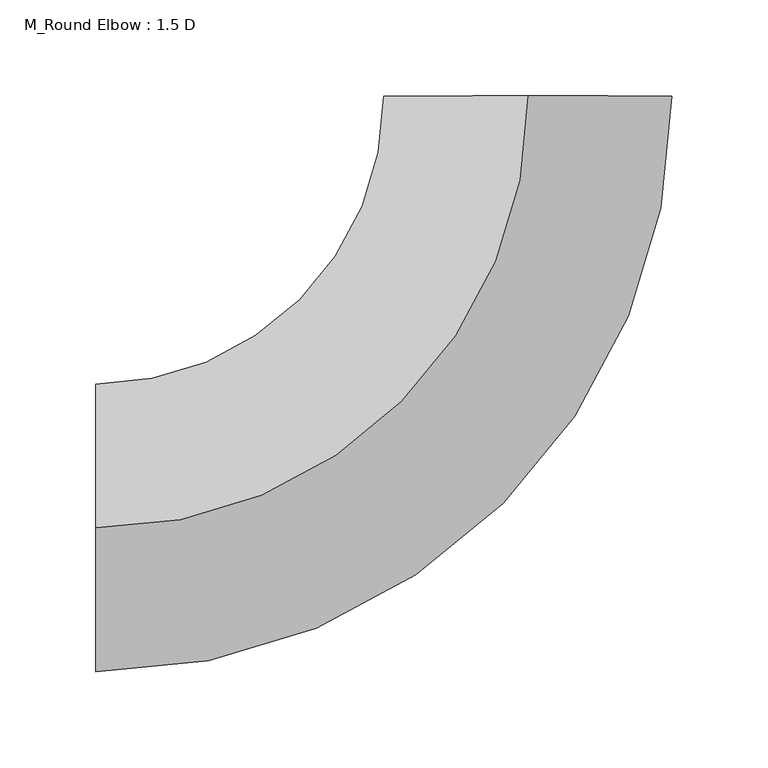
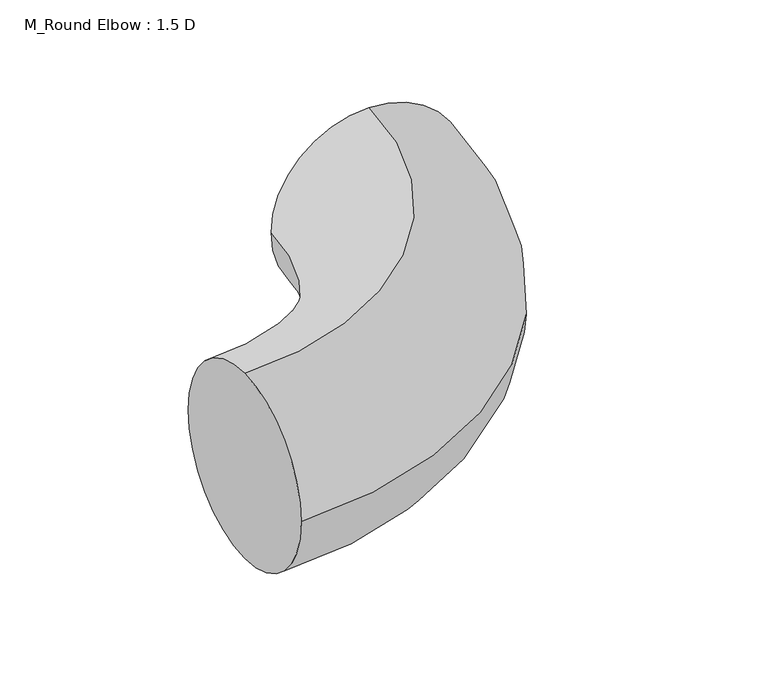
"""IFC4 building model written with IfcOpenShell, lengths in millimetres: duct fitting geometry, M_Round Elbow : 1.5 D."""

from ifc_helpers import new_model, si_unit, point, frame, origin, place, context, project, spatial, circle_curve, ellipse_curve, trimmed, source, transform, mapped, element, save
from ifc_brep_helpers import plane_surface, revolved_surface, advanced_brep


def m_round_elbow_1_5_d_a5a9c0f7(model_context):
    return source(origin(), model_context, "Body", "AdvancedBrep", [
        advanced_brep(
        [(-225.0030571, 0.0, 75.0), (-225.0030571, 75.0, 0.0), (-225.0030571, 0.0, -75.0), (-225.0030571, -75.0, 0.0), (-0.0030571, 225.0030571, 75.0), (74.9969429, 225.0040761, 0.0), (-0.0030571, 225.0030571, -75.0), (-75.0030571, 225.002038, 0.0)],
        [
            (0, 1, circle_curve(frame((-225.0030571, 0.0, 0.0), z_axis=(-1.0, 0.0, 0.0), x_axis=(0.0, 1.0, 0.0)), 75.0)),
            (1, 2, circle_curve(frame((-225.0030571, 0.0, 0.0), z_axis=(-1.0, 0.0, 0.0), x_axis=(0.0, 1.0, 0.0)), 75.0)),
            (2, 3, circle_curve(frame((-225.0030571, 0.0, 0.0), z_axis=(-1.0, 0.0, 0.0), x_axis=(0.0, 1.0, 0.0)), 75.0)),
            (3, 0, circle_curve(frame((-225.0030571, 0.0, 0.0), z_axis=(-1.0, 0.0, 0.0), x_axis=(0.0, 1.0, 0.0)), 75.0)),
            (4, 5, circle_curve(frame((-0.0030571, 225.0030571, 0.0), z_axis=(-1.3586956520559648e-05, 0.9999999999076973, 0.0), x_axis=(-0.9999999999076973, -1.3586956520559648e-05, 0.0)), 75.0)),
            (5, 6, circle_curve(frame((-0.0030571, 225.0030571, 0.0), z_axis=(-1.3586956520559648e-05, 0.9999999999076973, 0.0), x_axis=(-0.9999999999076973, -1.3586956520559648e-05, 0.0)), 75.0)),
            (6, 7, circle_curve(frame((-0.0030571, 225.0030571, 0.0), z_axis=(-1.3586956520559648e-05, 0.9999999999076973, 0.0), x_axis=(-0.9999999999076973, -1.3586956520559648e-05, 0.0)), 75.0)),
            (7, 4, circle_curve(frame((-0.0030571, 225.0030571, 0.0), z_axis=(-1.3586956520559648e-05, 0.9999999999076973, 0.0), x_axis=(-0.9999999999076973, -1.3586956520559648e-05, 0.0)), 75.0)),
            (7, 1, circle_curve(frame((-225.0030571, 225.0, 0.0), z_axis=(0.0, 0.0, -1.0), x_axis=(0.0, -1.0, 0.0)), 150.0)),
            (0, 4, circle_curve(frame((-225.0030571, 225.0, 75.0), z_axis=(0.0, 0.0, 1.0), x_axis=(0.0, -1.0, 0.0)), 225.0)),
            (6, 2, circle_curve(frame((-225.0030571, 225.0, -75.0), z_axis=(0.0, 0.0, -1.0), x_axis=(0.0, -1.0, 0.0)), 225.0)),
            (5, 3, circle_curve(frame((-225.0030571, 225.0, 0.0), z_axis=(0.0, 0.0, -1.0), x_axis=(0.0, -1.0, 0.0)), 300.0)),
        ],
        [
            plane_surface(frame((-225.0030571, 0.0, 0.0), z_axis=(-1.0, 0.0, 0.0), x_axis=(0.0, 0.0, 1.0))),
            plane_surface(frame((-0.0030571, 225.0030571, 0.0), z_axis=(-1.3586956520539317e-05, 0.9999999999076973, 0.0), x_axis=(0.0, 0.0, 1.0))),
            revolved_surface(trimmed(ellipse_curve(frame((-225.0030571, 0.0, 0.0), z_axis=(-1.0, 0.0, 0.0), x_axis=(0.0, 1.0, 0.0)), 75.0, 75.0), [point((-225.0030571, 0.0, 75.0))], [point((-225.0030571, 75.0, 0.0))], True, "CARTESIAN"), (-225.0030571, 225.0, 0.0), (0.0, 0.0, 1.0)),
            revolved_surface(trimmed(ellipse_curve(frame((-225.0030571, 0.0, 0.0), z_axis=(-1.0, 0.0, 0.0), x_axis=(0.0, 1.0, 0.0)), 75.0, 75.0), [point((-225.0030571, 75.0, 0.0))], [point((-225.0030571, 0.0, -75.0))], True, "CARTESIAN"), (-225.0030571, 225.0, 0.0), (0.0, 0.0, 1.0)),
            revolved_surface(trimmed(ellipse_curve(frame((-225.0030571, 0.0, 0.0), z_axis=(-1.0, 0.0, 0.0), x_axis=(0.0, 1.0, 0.0)), 75.0, 75.0), [point((-225.0030571, 0.0, -75.0))], [point((-225.0030571, -75.0, 0.0))], True, "CARTESIAN"), (-225.0030571, 225.0, 0.0), (0.0, 0.0, 1.0)),
            revolved_surface(trimmed(ellipse_curve(frame((-225.0030571, 0.0, 0.0), z_axis=(-1.0, 0.0, 0.0), x_axis=(0.0, 1.0, 0.0)), 75.0, 75.0), [point((-225.0030571, -75.0, 0.0))], [point((-225.0030571, 0.0, 75.0))], True, "CARTESIAN"), (-225.0030571, 225.0, 0.0), (0.0, 0.0, 1.0)),
        ],
        [
            (0, [[1, 2, 3, 4]]),
            (1, [[5, 6, 7, 8]]),
            (2, [[9, -1, 10, -8]]),
            (3, [[11, -2, -9, -7]]),
            (4, [[12, -3, -11, -6]]),
            (5, [[-10, -4, -12, -5]]),
        ],
    ),
        advanced_brep(
        [(-225.0030571, 0.0, 75.0), (-225.0030571, 75.0, 0.0), (-225.0030571, 0.0, -75.0), (-225.0030571, -75.0, 0.0), (-0.0030571, 225.0030571, 75.0), (74.9969429, 225.0040761, 0.0), (-0.0030571, 225.0030571, -75.0), (-75.0030571, 225.002038, 0.0)],
        [
            (0, 1, circle_curve(frame((-225.0030571, 0.0, 0.0), z_axis=(-1.0, 0.0, 0.0), x_axis=(0.0, 1.0, 0.0)), 75.0)),
            (1, 2, circle_curve(frame((-225.0030571, 0.0, 0.0), z_axis=(-1.0, 0.0, 0.0), x_axis=(0.0, 1.0, 0.0)), 75.0)),
            (2, 3, circle_curve(frame((-225.0030571, 0.0, 0.0), z_axis=(-1.0, 0.0, 0.0), x_axis=(0.0, 1.0, 0.0)), 75.0)),
            (3, 0, circle_curve(frame((-225.0030571, 0.0, 0.0), z_axis=(-1.0, 0.0, 0.0), x_axis=(0.0, 1.0, 0.0)), 75.0)),
            (4, 5, circle_curve(frame((-0.0030571, 225.0030571, 0.0), z_axis=(-1.3586956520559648e-05, 0.9999999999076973, 0.0), x_axis=(-0.9999999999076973, -1.3586956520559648e-05, 0.0)), 75.0)),
            (5, 6, circle_curve(frame((-0.0030571, 225.0030571, 0.0), z_axis=(-1.3586956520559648e-05, 0.9999999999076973, 0.0), x_axis=(-0.9999999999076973, -1.3586956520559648e-05, 0.0)), 75.0)),
            (6, 7, circle_curve(frame((-0.0030571, 225.0030571, 0.0), z_axis=(-1.3586956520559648e-05, 0.9999999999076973, 0.0), x_axis=(-0.9999999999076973, -1.3586956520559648e-05, 0.0)), 75.0)),
            (7, 4, circle_curve(frame((-0.0030571, 225.0030571, 0.0), z_axis=(-1.3586956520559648e-05, 0.9999999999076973, 0.0), x_axis=(-0.9999999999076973, -1.3586956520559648e-05, 0.0)), 75.0)),
            (7, 1, circle_curve(frame((-225.0030571, 225.0, 0.0), z_axis=(0.0, 0.0, -1.0), x_axis=(0.0, -1.0, 0.0)), 150.0)),
            (0, 4, circle_curve(frame((-225.0030571, 225.0, 75.0), z_axis=(0.0, 0.0, 1.0), x_axis=(0.0, -1.0, 0.0)), 225.0)),
            (6, 2, circle_curve(frame((-225.0030571, 225.0, -75.0), z_axis=(0.0, 0.0, -1.0), x_axis=(0.0, -1.0, 0.0)), 225.0)),
            (5, 3, circle_curve(frame((-225.0030571, 225.0, 0.0), z_axis=(0.0, 0.0, -1.0), x_axis=(0.0, -1.0, 0.0)), 300.0)),
        ],
        [
            plane_surface(frame((-225.0030571, 0.0, 0.0), z_axis=(-1.0, 0.0, 0.0), x_axis=(0.0, 0.0, 1.0))),
            plane_surface(frame((-0.0030571, 225.0030571, 0.0), z_axis=(-1.3586956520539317e-05, 0.9999999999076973, 0.0), x_axis=(0.0, 0.0, 1.0))),
            revolved_surface(trimmed(ellipse_curve(frame((-225.0030571, 0.0, 0.0), z_axis=(-1.0, 0.0, 0.0), x_axis=(0.0, 1.0, 0.0)), 75.0, 75.0), [point((-225.0030571, 0.0, 75.0))], [point((-225.0030571, 75.0, 0.0))], True, "CARTESIAN"), (-225.0030571, 225.0, 0.0), (0.0, 0.0, 1.0)),
            revolved_surface(trimmed(ellipse_curve(frame((-225.0030571, 0.0, 0.0), z_axis=(-1.0, 0.0, 0.0), x_axis=(0.0, 1.0, 0.0)), 75.0, 75.0), [point((-225.0030571, 75.0, 0.0))], [point((-225.0030571, 0.0, -75.0))], True, "CARTESIAN"), (-225.0030571, 225.0, 0.0), (0.0, 0.0, 1.0)),
            revolved_surface(trimmed(ellipse_curve(frame((-225.0030571, 0.0, 0.0), z_axis=(-1.0, 0.0, 0.0), x_axis=(0.0, 1.0, 0.0)), 75.0, 75.0), [point((-225.0030571, 0.0, -75.0))], [point((-225.0030571, -75.0, 0.0))], True, "CARTESIAN"), (-225.0030571, 225.0, 0.0), (0.0, 0.0, 1.0)),
            revolved_surface(trimmed(ellipse_curve(frame((-225.0030571, 0.0, 0.0), z_axis=(-1.0, 0.0, 0.0), x_axis=(0.0, 1.0, 0.0)), 75.0, 75.0), [point((-225.0030571, -75.0, 0.0))], [point((-225.0030571, 0.0, 75.0))], True, "CARTESIAN"), (-225.0030571, 225.0, 0.0), (0.0, 0.0, 1.0)),
        ],
        [
            (0, [[1, 2, 3, 4]]),
            (1, [[5, 6, 7, 8]]),
            (2, [[9, -1, 10, -8]]),
            (3, [[11, -2, -9, -7]]),
            (4, [[12, -3, -11, -6]]),
            (5, [[-10, -4, -12, -5]]),
        ],
    ),
        advanced_brep(
        [(-225.0030571, 0.0, 75.0), (-225.0030571, 75.0, 0.0), (-225.0030571, 0.0, -75.0), (-225.0030571, -75.0, 0.0), (-0.0030571, 225.0030571, 75.0), (74.9969429, 225.0040761, 0.0), (-0.0030571, 225.0030571, -75.0), (-75.0030571, 225.002038, 0.0)],
        [
            (0, 1, circle_curve(frame((-225.0030571, 0.0, 0.0), z_axis=(-1.0, 0.0, 0.0), x_axis=(0.0, 1.0, 0.0)), 75.0)),
            (1, 2, circle_curve(frame((-225.0030571, 0.0, 0.0), z_axis=(-1.0, 0.0, 0.0), x_axis=(0.0, 1.0, 0.0)), 75.0)),
            (2, 3, circle_curve(frame((-225.0030571, 0.0, 0.0), z_axis=(-1.0, 0.0, 0.0), x_axis=(0.0, 1.0, 0.0)), 75.0)),
            (3, 0, circle_curve(frame((-225.0030571, 0.0, 0.0), z_axis=(-1.0, 0.0, 0.0), x_axis=(0.0, 1.0, 0.0)), 75.0)),
            (4, 5, circle_curve(frame((-0.0030571, 225.0030571, 0.0), z_axis=(-1.3586956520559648e-05, 0.9999999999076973, 0.0), x_axis=(-0.9999999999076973, -1.3586956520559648e-05, 0.0)), 75.0)),
            (5, 6, circle_curve(frame((-0.0030571, 225.0030571, 0.0), z_axis=(-1.3586956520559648e-05, 0.9999999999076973, 0.0), x_axis=(-0.9999999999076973, -1.3586956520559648e-05, 0.0)), 75.0)),
            (6, 7, circle_curve(frame((-0.0030571, 225.0030571, 0.0), z_axis=(-1.3586956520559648e-05, 0.9999999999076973, 0.0), x_axis=(-0.9999999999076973, -1.3586956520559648e-05, 0.0)), 75.0)),
            (7, 4, circle_curve(frame((-0.0030571, 225.0030571, 0.0), z_axis=(-1.3586956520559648e-05, 0.9999999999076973, 0.0), x_axis=(-0.9999999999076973, -1.3586956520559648e-05, 0.0)), 75.0)),
            (7, 1, circle_curve(frame((-225.0030571, 225.0, 0.0), z_axis=(0.0, 0.0, -1.0), x_axis=(0.0, -1.0, 0.0)), 150.0)),
            (0, 4, circle_curve(frame((-225.0030571, 225.0, 75.0), z_axis=(0.0, 0.0, 1.0), x_axis=(0.0, -1.0, 0.0)), 225.0)),
            (6, 2, circle_curve(frame((-225.0030571, 225.0, -75.0), z_axis=(0.0, 0.0, -1.0), x_axis=(0.0, -1.0, 0.0)), 225.0)),
            (5, 3, circle_curve(frame((-225.0030571, 225.0, 0.0), z_axis=(0.0, 0.0, -1.0), x_axis=(0.0, -1.0, 0.0)), 300.0)),
        ],
        [
            plane_surface(frame((-225.0030571, 0.0, 0.0), z_axis=(-1.0, 0.0, 0.0), x_axis=(0.0, 0.0, 1.0))),
            plane_surface(frame((-0.0030571, 225.0030571, 0.0), z_axis=(-1.3586956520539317e-05, 0.9999999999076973, 0.0), x_axis=(0.0, 0.0, 1.0))),
            revolved_surface(trimmed(ellipse_curve(frame((-225.0030571, 0.0, 0.0), z_axis=(-1.0, 0.0, 0.0), x_axis=(0.0, 1.0, 0.0)), 75.0, 75.0), [point((-225.0030571, 0.0, 75.0))], [point((-225.0030571, 75.0, 0.0))], True, "CARTESIAN"), (-225.0030571, 225.0, 0.0), (0.0, 0.0, 1.0)),
            revolved_surface(trimmed(ellipse_curve(frame((-225.0030571, 0.0, 0.0), z_axis=(-1.0, 0.0, 0.0), x_axis=(0.0, 1.0, 0.0)), 75.0, 75.0), [point((-225.0030571, 75.0, 0.0))], [point((-225.0030571, 0.0, -75.0))], True, "CARTESIAN"), (-225.0030571, 225.0, 0.0), (0.0, 0.0, 1.0)),
            revolved_surface(trimmed(ellipse_curve(frame((-225.0030571, 0.0, 0.0), z_axis=(-1.0, 0.0, 0.0), x_axis=(0.0, 1.0, 0.0)), 75.0, 75.0), [point((-225.0030571, 0.0, -75.0))], [point((-225.0030571, -75.0, 0.0))], True, "CARTESIAN"), (-225.0030571, 225.0, 0.0), (0.0, 0.0, 1.0)),
            revolved_surface(trimmed(ellipse_curve(frame((-225.0030571, 0.0, 0.0), z_axis=(-1.0, 0.0, 0.0), x_axis=(0.0, 1.0, 0.0)), 75.0, 75.0), [point((-225.0030571, -75.0, 0.0))], [point((-225.0030571, 0.0, 75.0))], True, "CARTESIAN"), (-225.0030571, 225.0, 0.0), (0.0, 0.0, 1.0)),
        ],
        [
            (0, [[1, 2, 3, 4]]),
            (1, [[5, 6, 7, 8]]),
            (2, [[9, -1, 10, -8]]),
            (3, [[11, -2, -9, -7]]),
            (4, [[12, -3, -11, -6]]),
            (5, [[-10, -4, -12, -5]]),
        ],
    ),
    ])


if __name__ == "__main__":
    model = new_model("IFC4")
    model_context = context("Model", 3, world=origin())
    ifc_project = project(units=[si_unit("LENGTHUNIT", "METRE", prefix="MILLI")], contexts=[model_context])
    site = spatial("IfcSite", under=ifc_project)
    building = spatial("IfcBuilding", under=site)
    placement = place(None, origin())
    m_round_elbow_1_5_d_shape = m_round_elbow_1_5_d_a5a9c0f7(model_context)
    element("IfcDuctFitting", 1, ObjectType="M_Round Elbow : 1.5 D", at=placement, inside=building, context=model_context, shape_type="MappedRepresentation", body=[
        mapped(m_round_elbow_1_5_d_shape, transform((0.0, 0.0, 0.0), x_axis=(1.0, 0.0, 0.0), y_axis=(0.0, 1.0, 0.0), z_axis=(0.0, 0.0, 1.0))),
    ])
    save(model, "model.ifc")
